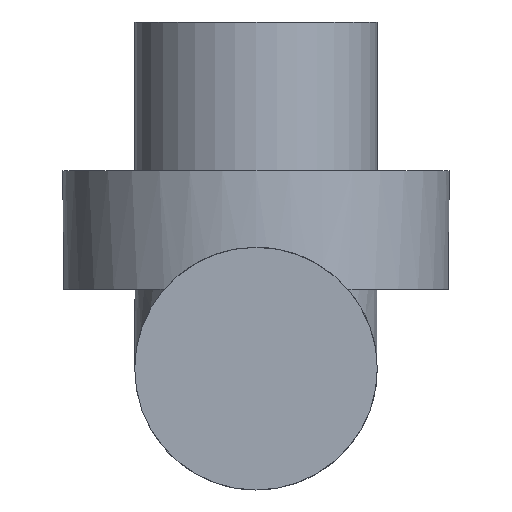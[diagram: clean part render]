
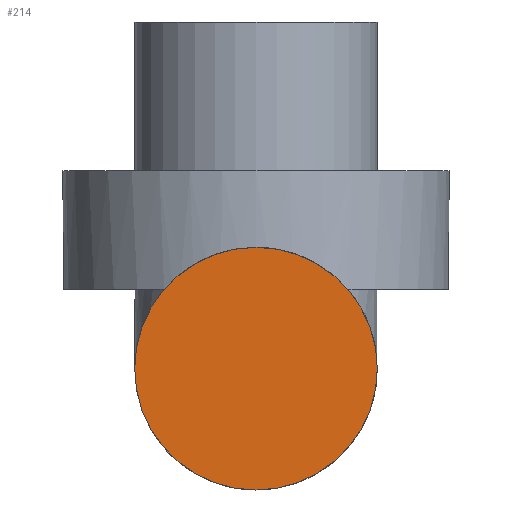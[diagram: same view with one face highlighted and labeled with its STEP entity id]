
A CAD part, left-side view. The second image highlights one B-rep face of the part: STEP entity #214.
In plain terms, the highlighted planar face has unit normal (-1, 0, 0).
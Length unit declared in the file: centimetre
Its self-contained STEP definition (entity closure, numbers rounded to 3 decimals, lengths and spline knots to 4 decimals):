
#16=CIRCLE('',#238,0.245);
#44=FACE_OUTER_BOUND('',#58,.T.);
#58=EDGE_LOOP('',(#193));
#101=VERTEX_POINT('',#367);
#122=EDGE_CURVE('',#101,#101,#16,.T.);
#193=ORIENTED_EDGE('',*,*,#122,.T.);
#201=PLANE('',#257);
#214=ADVANCED_FACE('',(#44),#201,.T.);
#238=AXIS2_PLACEMENT_3D('',#369,#286,#287);
#257=AXIS2_PLACEMENT_3D('',#404,#327,#328);
#286=DIRECTION('center_axis',(-1.,0.,0.));
#287=DIRECTION('ref_axis',(0.,0.,-1.));
#327=DIRECTION('center_axis',(-1.,0.,0.));
#328=DIRECTION('ref_axis',(0.,0.,1.));
#367=CARTESIAN_POINT('',(-1.665,0.2,-0.455));
#369=CARTESIAN_POINT('Origin',(-1.665,0.2,-0.7));
#404=CARTESIAN_POINT('Origin',(-1.665,0.2,-0.7));
